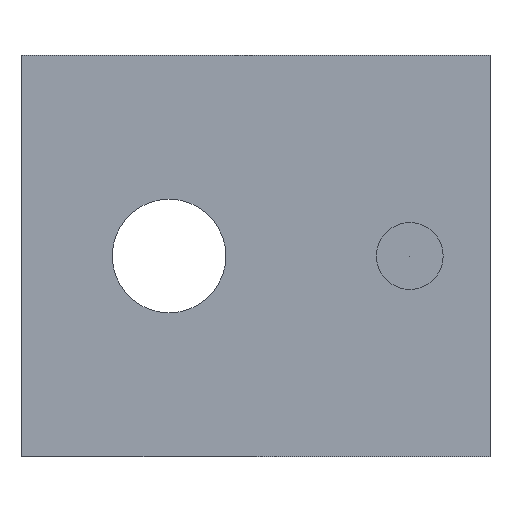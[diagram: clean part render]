
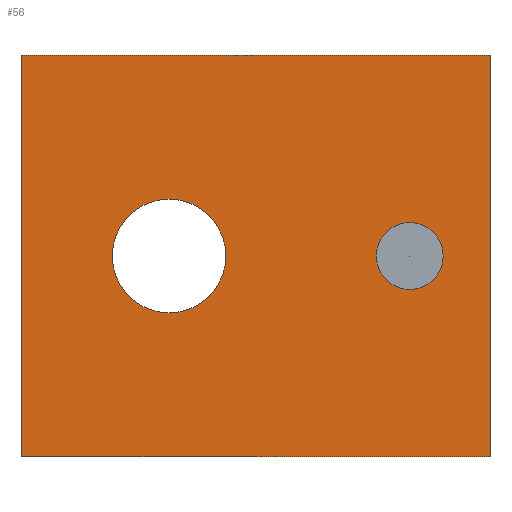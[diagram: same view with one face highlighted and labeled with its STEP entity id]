
A CAD part, front view. The second image highlights one B-rep face of the part: STEP entity #56.
In plain terms, the highlighted planar face has unit normal (0, -1, 0).
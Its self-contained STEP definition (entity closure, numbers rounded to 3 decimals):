
#56=ADVANCED_FACE('',(#113,#114,#115),#69,.T.);
#69=PLANE('',#261);
#74=LINE('',#339,#92);
#82=LINE('',#357,#100);
#88=LINE('',#368,#106);
#89=LINE('',#374,#107);
#92=VECTOR('',#278,1.);
#100=VECTOR('',#292,1.);
#106=VECTOR('',#300,1.);
#107=VECTOR('',#307,1.);
#113=FACE_BOUND('',#134,.T.);
#114=FACE_BOUND('',#135,.T.);
#115=FACE_BOUND('',#136,.T.);
#134=EDGE_LOOP('',(#172));
#135=EDGE_LOOP('',(#173));
#136=EDGE_LOOP('',(#174,#175,#176,#177));
#172=ORIENTED_EDGE('',*,*,#238,.T.);
#173=ORIENTED_EDGE('',*,*,#239,.F.);
#174=ORIENTED_EDGE('',*,*,#231,.F.);
#175=ORIENTED_EDGE('',*,*,#237,.F.);
#176=ORIENTED_EDGE('',*,*,#222,.T.);
#177=ORIENTED_EDGE('',*,*,#240,.T.);
#201=VERTEX_POINT('',#337);
#203=VERTEX_POINT('',#340);
#210=VERTEX_POINT('',#358);
#211=VERTEX_POINT('',#359);
#214=VERTEX_POINT('',#371);
#215=VERTEX_POINT('',#373);
#222=EDGE_CURVE('',#203,#201,#74,.T.);
#231=EDGE_CURVE('',#210,#211,#82,.T.);
#237=EDGE_CURVE('',#203,#210,#88,.T.);
#238=EDGE_CURVE('',#214,#214,#247,.T.);
#239=EDGE_CURVE('',#215,#215,#248,.T.);
#240=EDGE_CURVE('',#201,#211,#89,.T.);
#247=CIRCLE('',#259,2.5);
#248=CIRCLE('',#260,4.25);
#259=AXIS2_PLACEMENT_3D('',#370,#303,#304);
#260=AXIS2_PLACEMENT_3D('',#372,#305,#306);
#261=AXIS2_PLACEMENT_3D('',#375,#308,#309);
#278=DIRECTION('',(1.,0.,0.));
#292=DIRECTION('',(1.,0.,0.));
#300=DIRECTION('',(0.,0.,1.));
#303=DIRECTION('',(0.,1.,0.));
#304=DIRECTION('',(0.,0.,1.));
#305=DIRECTION('',(0.,-1.,0.));
#306=DIRECTION('',(0.,0.,-1.));
#307=DIRECTION('',(0.,0.,1.));
#308=DIRECTION('',(0.,-1.,0.));
#309=DIRECTION('',(0.,0.,-1.));
#337=CARTESIAN_POINT('',(35.,0.,-15.));
#339=CARTESIAN_POINT('',(0.,0.,-15.));
#340=CARTESIAN_POINT('',(0.,0.,-15.));
#357=CARTESIAN_POINT('',(0.,0.,15.));
#358=CARTESIAN_POINT('',(0.,0.,15.));
#359=CARTESIAN_POINT('',(35.,0.,15.));
#368=CARTESIAN_POINT('',(0.,0.,-15.));
#370=CARTESIAN_POINT('',(29.,0.,0.));
#371=CARTESIAN_POINT('',(29.,0.,2.5));
#372=CARTESIAN_POINT('',(11.,0.,0.));
#373=CARTESIAN_POINT('',(11.,0.,-4.25));
#374=CARTESIAN_POINT('',(35.,0.,-15.));
#375=CARTESIAN_POINT('',(0.,0.,-15.));
